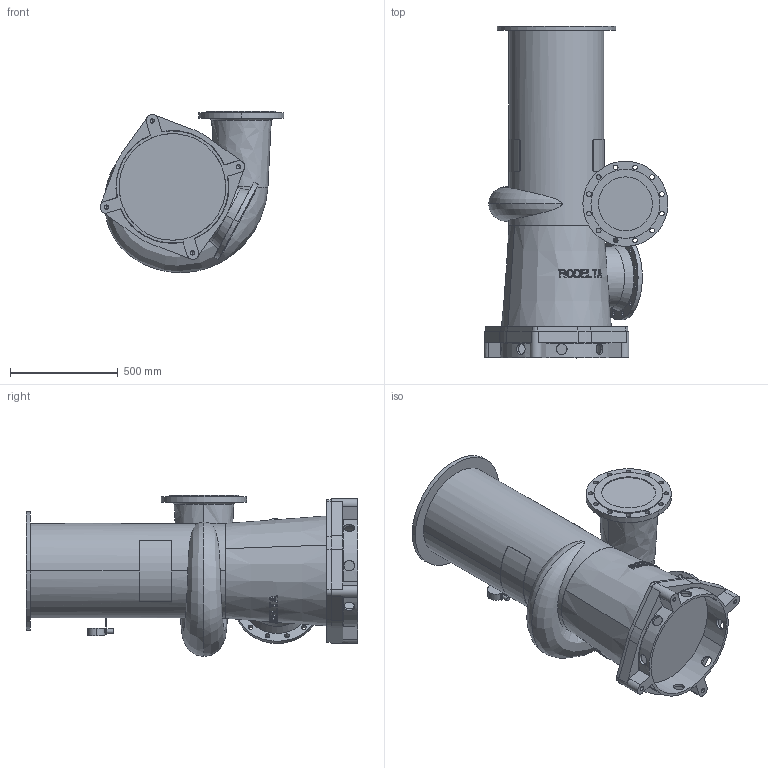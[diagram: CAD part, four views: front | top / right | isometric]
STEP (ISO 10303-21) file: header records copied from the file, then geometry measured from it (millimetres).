
FILE_DESCRIPTION((''),'2;1');
FILE_NAME('8510_ASM','2024-07-30T',('Lyritlocal'),(''),'PRO/ENGINEER BY PARAMETRIC TECHNOLOGY CORPORATION, 2016360','PRO/ENGINEER BY PARAMETRIC TECHNOLOGY CORPORATION, 2016360','');
FILE_SCHEMA(('CONFIG_CONTROL_DESIGN'));
Length unit declared in the file: millimetre
Products named in the file (3): 8510; 8510_VOET; 8510_ASM
Assembly tree (2 placements, depth 2):
  8510_ASM
    8510
    8510_VOET
Bounding box: 853.39 x 1539 x 747.2 mm (x, y, z)
Volume: 297748321.2 mm3; surface area: 4725053.7 mm2
Topology: 2 solids, 6 shells, 542 faces, 1460 edges, 967 vertices
Faces by surface type: plane 343, cylinder 155, cone 34, bspline 6, torus 4
Entity records: 19328 total; most frequent: CARTESIAN_POINT 6085, ORIENTED_EDGE 2888, DIRECTION 2477, EDGE_CURVE 1452, VERTEX_POINT 967, AXIS2_PLACEMENT_3D 961, EDGE_LOOP 659, VECTOR 555
